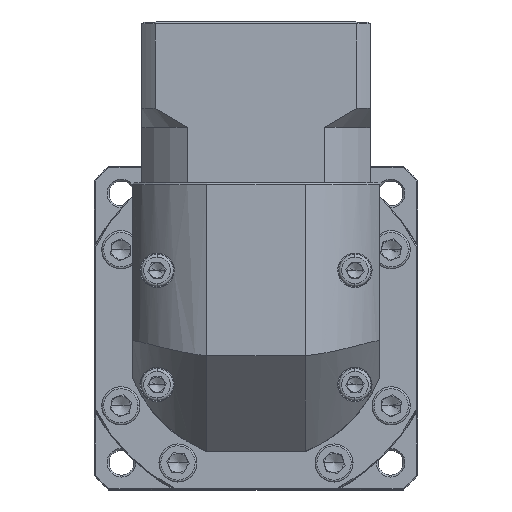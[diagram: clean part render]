
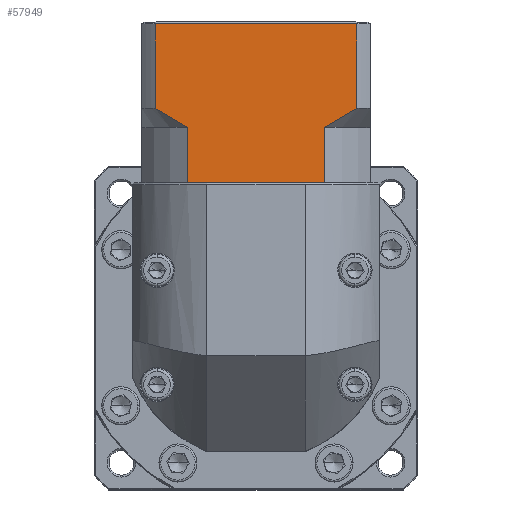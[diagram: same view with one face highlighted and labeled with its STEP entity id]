
A CAD part, top view. The second image highlights one B-rep face of the part: STEP entity #57949.
In plain terms, the highlighted planar face has unit normal (0, 0, 1).
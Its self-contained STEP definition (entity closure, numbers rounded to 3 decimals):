
#3724 = CARTESIAN_POINT ( 'NONE',  ( -77.385, 74.735, 16.273 ) ) ;
#5515 = B_SPLINE_CURVE_WITH_KNOTS ( 'NONE', 3,
 ( #53051, #117131, #13950, #55697, #97009, #96563 ),
 .UNSPECIFIED., .F., .F.,
 ( 4, 2, 4 ),
 ( 0.052, 0.057, 0.062 ),
 .UNSPECIFIED. ) ;
#7728 = VECTOR ( 'NONE', #15006, 1000. ) ;
#10432 = ORIENTED_EDGE ( 'NONE', *, *, #92258, .T. ) ;
#10948 = LINE ( 'NONE', #3724, #7728 ) ;
#13950 = CARTESIAN_POINT ( 'NONE',  ( -71.104, 92.462, 16.273 ) ) ;
#14139 = CARTESIAN_POINT ( 'NONE',  ( -65.413, 74.735, 16.273 ) ) ;
#15006 = DIRECTION ( 'NONE',  ( 1., 0., 0. ) ) ;
#15777 = VECTOR ( 'NONE', #94948, 1000. ) ;
#16331 = LINE ( 'NONE', #133023, #24436 ) ;
#16737 = DIRECTION ( 'NONE',  ( 0., 1., 0. ) ) ;
#18515 = DIRECTION ( 'NONE',  ( 0., 0., -1. ) ) ;
#18802 = VERTEX_POINT ( 'NONE', #58466 ) ;
#19524 = ORIENTED_EDGE ( 'NONE', *, *, #52524, .T. ) ;
#21341 = CARTESIAN_POINT ( 'NONE',  ( -20.927, 116.435, 16.273 ) ) ;
#23914 = LINE ( 'NONE', #125533, #75417 ) ;
#24436 = VECTOR ( 'NONE', #41369, 1000. ) ;
#26622 = ORIENTED_EDGE ( 'NONE', *, *, #80068, .F. ) ;
#26701 = LINE ( 'NONE', #62989, #81422 ) ;
#27371 = VERTEX_POINT ( 'NONE', #106223 ) ;
#32973 = VERTEX_POINT ( 'NONE', #105310 ) ;
#33102 = ORIENTED_EDGE ( 'NONE', *, *, #97172, .F. ) ;
#34696 = AXIS2_PLACEMENT_3D ( 'NONE', #59377, #18515, #16737 ) ;
#34698 = CARTESIAN_POINT ( 'NONE',  ( -20.927, 94.235, 16.273 ) ) ;
#39822 = B_SPLINE_CURVE_WITH_KNOTS ( 'NONE', 3,
 ( #95779, #74353, #115050, #64411, #54471, #34698 ),
 .UNSPECIFIED., .F., .F.,
 ( 4, 2, 4 ),
 ( 0.1, 0.104, 0.109 ),
 .UNSPECIFIED. ) ;
#41369 = DIRECTION ( 'NONE',  ( 0., -1., 0. ) ) ;
#45244 = CARTESIAN_POINT ( 'NONE',  ( -73.842, 89.235, 16.273 ) ) ;
#46163 = VERTEX_POINT ( 'NONE', #14139 ) ;
#49152 = VERTEX_POINT ( 'NONE', #89250 ) ;
#49510 = EDGE_CURVE ( 'NONE', #90794, #27371, #110536, .T. ) ;
#50335 = VECTOR ( 'NONE', #132404, 1000. ) ;
#52524 = EDGE_CURVE ( 'NONE', #93052, #32973, #5515, .T. ) ;
#53051 = CARTESIAN_POINT ( 'NONE',  ( -73.842, 94.235, 16.273 ) ) ;
#53634 = CARTESIAN_POINT ( 'NONE',  ( -77.385, 74.735, 16.273 ) ) ;
#53695 = ORIENTED_EDGE ( 'NONE', *, *, #124668, .T. ) ;
#54471 = CARTESIAN_POINT ( 'NONE',  ( -22.29, 93.334, 16.273 ) ) ;
#55204 = DIRECTION ( 'NONE',  ( 0., 1., 0. ) ) ;
#55697 = CARTESIAN_POINT ( 'NONE',  ( -68.296, 90.786, 16.273 ) ) ;
#57949 = ADVANCED_FACE ( 'NONE', ( #72382 ), #120863, .F. ) ;
#58466 = CARTESIAN_POINT ( 'NONE',  ( -29.357, 89.235, 16.273 ) ) ;
#59377 = CARTESIAN_POINT ( 'NONE',  ( -77.385, 116.935, 16.273 ) ) ;
#60590 = VECTOR ( 'NONE', #101235, 1000. ) ;
#61578 = LINE ( 'NONE', #103123, #50335 ) ;
#62379 = EDGE_LOOP ( 'NONE', ( #33102, #53695, #101428, #19524, #119573, #115425, #10432, #91239, #26622, #126215 ) ) ;
#62989 = CARTESIAN_POINT ( 'NONE',  ( -29.357, 89.235, 16.273 ) ) ;
#64064 = DIRECTION ( 'NONE',  ( 1., 0., 0. ) ) ;
#64411 = CARTESIAN_POINT ( 'NONE',  ( -23.67, 92.46, 16.273 ) ) ;
#65322 = CARTESIAN_POINT ( 'NONE',  ( -73.842, 116.435, 16.273 ) ) ;
#72158 = CARTESIAN_POINT ( 'NONE',  ( -65.413, 89.235, 16.273 ) ) ;
#72382 = FACE_OUTER_BOUND ( 'NONE', #62379, .T. ) ;
#74353 = CARTESIAN_POINT ( 'NONE',  ( -27.901, 89.985, 16.273 ) ) ;
#75417 = VECTOR ( 'NONE', #64064, 1000. ) ;
#77078 = EDGE_CURVE ( 'NONE', #93052, #107895, #85226, .T. ) ;
#78011 = CARTESIAN_POINT ( 'NONE',  ( -30.348, 74.735, 16.273 ) ) ;
#80068 = EDGE_CURVE ( 'NONE', #18802, #27371, #26701, .T. ) ;
#81187 = EDGE_CURVE ( 'NONE', #18802, #49152, #39822, .T. ) ;
#81422 = VECTOR ( 'NONE', #84551, 1000. ) ;
#83399 = CARTESIAN_POINT ( 'NONE',  ( -64.422, 74.735, 16.273 ) ) ;
#84551 = DIRECTION ( 'NONE',  ( 0., -1., 0. ) ) ;
#85226 = LINE ( 'NONE', #45244, #110713 ) ;
#89250 = CARTESIAN_POINT ( 'NONE',  ( -20.927, 94.235, 16.273 ) ) ;
#90794 = VERTEX_POINT ( 'NONE', #78011 ) ;
#91239 = ORIENTED_EDGE ( 'NONE', *, *, #49510, .T. ) ;
#92258 = EDGE_CURVE ( 'NONE', #130134, #90794, #23914, .T. ) ;
#93052 = VERTEX_POINT ( 'NONE', #131831 ) ;
#94948 = DIRECTION ( 'NONE',  ( 1., 0., 0. ) ) ;
#95779 = CARTESIAN_POINT ( 'NONE',  ( -29.357, 89.235, 16.273 ) ) ;
#96563 = CARTESIAN_POINT ( 'NONE',  ( -65.413, 89.235, 16.273 ) ) ;
#97009 = CARTESIAN_POINT ( 'NONE',  ( -66.865, 89.983, 16.273 ) ) ;
#97172 = EDGE_CURVE ( 'NONE', #115081, #49152, #16331, .T. ) ;
#101235 = DIRECTION ( 'NONE',  ( 0., 1., 0. ) ) ;
#101428 = ORIENTED_EDGE ( 'NONE', *, *, #77078, .F. ) ;
#103123 = CARTESIAN_POINT ( 'NONE',  ( -77.385, 116.435, 16.273 ) ) ;
#105310 = CARTESIAN_POINT ( 'NONE',  ( -65.413, 89.235, 16.273 ) ) ;
#106223 = CARTESIAN_POINT ( 'NONE',  ( -29.357, 74.735, 16.273 ) ) ;
#107895 = VERTEX_POINT ( 'NONE', #65322 ) ;
#110536 = LINE ( 'NONE', #53634, #15777 ) ;
#110713 = VECTOR ( 'NONE', #55204, 1000. ) ;
#113448 = EDGE_CURVE ( 'NONE', #46163, #32973, #118414, .T. ) ;
#115050 = CARTESIAN_POINT ( 'NONE',  ( -26.475, 90.786, 16.273 ) ) ;
#115081 = VERTEX_POINT ( 'NONE', #21341 ) ;
#115425 = ORIENTED_EDGE ( 'NONE', *, *, #127529, .T. ) ;
#117131 = CARTESIAN_POINT ( 'NONE',  ( -72.482, 93.336, 16.273 ) ) ;
#118414 = LINE ( 'NONE', #72158, #60590 ) ;
#119573 = ORIENTED_EDGE ( 'NONE', *, *, #113448, .F. ) ;
#120863 = PLANE ( 'NONE',  #34696 ) ;
#124668 = EDGE_CURVE ( 'NONE', #115081, #107895, #61578, .T. ) ;
#125533 = CARTESIAN_POINT ( 'NONE',  ( -77.385, 74.735, 16.273 ) ) ;
#126215 = ORIENTED_EDGE ( 'NONE', *, *, #81187, .T. ) ;
#127529 = EDGE_CURVE ( 'NONE', #46163, #130134, #10948, .T. ) ;
#130134 = VERTEX_POINT ( 'NONE', #83399 ) ;
#131831 = CARTESIAN_POINT ( 'NONE',  ( -73.842, 94.235, 16.273 ) ) ;
#132404 = DIRECTION ( 'NONE',  ( -1., 0., 0. ) ) ;
#133023 = CARTESIAN_POINT ( 'NONE',  ( -20.927, 89.235, 16.273 ) ) ;
